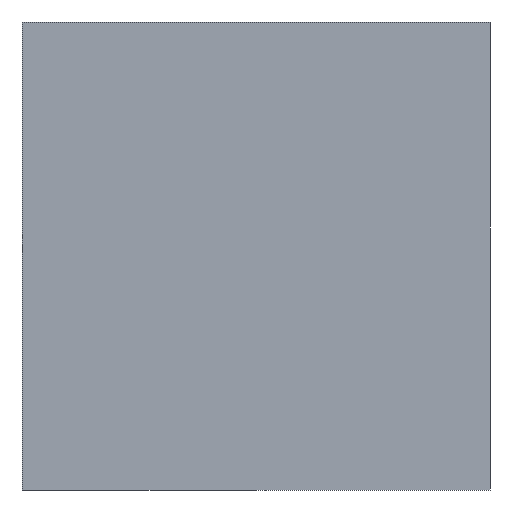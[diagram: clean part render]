
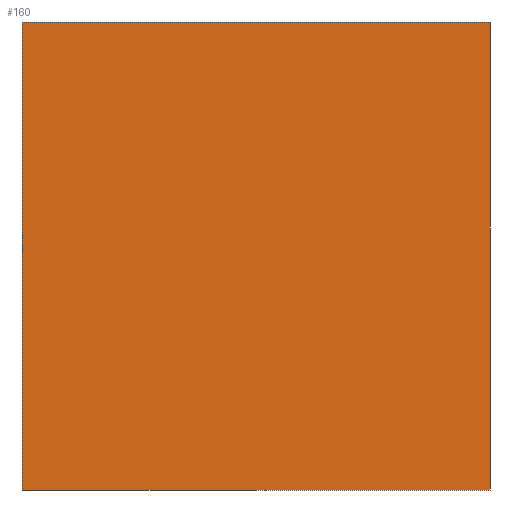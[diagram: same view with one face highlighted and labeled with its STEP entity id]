
A CAD part, left-side view. The second image highlights one B-rep face of the part: STEP entity #160.
In plain terms, the highlighted planar face has unit normal (-1, 0, 0).
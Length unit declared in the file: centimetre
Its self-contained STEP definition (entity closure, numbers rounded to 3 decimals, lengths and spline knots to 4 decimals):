
#3 = CARTESIAN_POINT ( 'NONE',  ( 0., 1000., 0. ) ) ;
#10 = LINE ( 'NONE', #148, #81 ) ;
#13 = VERTEX_POINT ( 'NONE', #277 ) ;
#28 = CARTESIAN_POINT ( 'NONE',  ( 0., 1000., 1000. ) ) ;
#63 = LINE ( 'NONE', #295, #72 ) ;
#72 = VECTOR ( 'NONE', #201, 100. ) ;
#81 = VECTOR ( 'NONE', #281, 100. ) ;
#99 = LINE ( 'NONE', #200, #379 ) ;
#100 = LINE ( 'NONE', #3, #292 ) ;
#105 = EDGE_CURVE ( 'NONE', #144, #387, #10, .T. ) ;
#109 = ORIENTED_EDGE ( 'NONE', *, *, #154, .T. ) ;
#139 = DIRECTION ( 'NONE',  ( 0., 0., -1. ) ) ;
#144 = VERTEX_POINT ( 'NONE', #197 ) ;
#146 = EDGE_CURVE ( 'NONE', #387, #241, #99, .T. ) ;
#148 = CARTESIAN_POINT ( 'NONE',  ( 0., 1000., 1000. ) ) ;
#154 = EDGE_CURVE ( 'NONE', #144, #13, #63, .T. ) ;
#160 = ADVANCED_FACE ( 'NONE', ( #334 ), #163, .F. ) ;
#163 = PLANE ( 'NONE',  #329 ) ;
#164 = DIRECTION ( 'NONE',  ( 0., -1., 0. ) ) ;
#197 = CARTESIAN_POINT ( 'NONE',  ( 0., 1000., 1000. ) ) ;
#200 = CARTESIAN_POINT ( 'NONE',  ( 0., 0., 1000. ) ) ;
#201 = DIRECTION ( 'NONE',  ( 0., 0., -1. ) ) ;
#208 = ORIENTED_EDGE ( 'NONE', *, *, #146, .F. ) ;
#222 = ORIENTED_EDGE ( 'NONE', *, *, #105, .F. ) ;
#239 = ORIENTED_EDGE ( 'NONE', *, *, #394, .T. ) ;
#241 = VERTEX_POINT ( 'NONE', #429 ) ;
#277 = CARTESIAN_POINT ( 'NONE',  ( 0., 1000., 0. ) ) ;
#281 = DIRECTION ( 'NONE',  ( 0., -1., 0. ) ) ;
#292 = VECTOR ( 'NONE', #164, 100. ) ;
#295 = CARTESIAN_POINT ( 'NONE',  ( 0., 1000., 1000. ) ) ;
#301 = DIRECTION ( 'NONE',  ( 1., 0., 0. ) ) ;
#329 = AXIS2_PLACEMENT_3D ( 'NONE', #28, #301, #402 ) ;
#334 = FACE_OUTER_BOUND ( 'NONE', #412, .T. ) ;
#338 = CARTESIAN_POINT ( 'NONE',  ( 0., 0., 1000. ) ) ;
#379 = VECTOR ( 'NONE', #139, 100. ) ;
#387 = VERTEX_POINT ( 'NONE', #338 ) ;
#394 = EDGE_CURVE ( 'NONE', #13, #241, #100, .T. ) ;
#402 = DIRECTION ( 'NONE',  ( 0., 0., -1. ) ) ;
#412 = EDGE_LOOP ( 'NONE', ( #239, #208, #222, #109 ) ) ;
#429 = CARTESIAN_POINT ( 'NONE',  ( 0., 0., 0. ) ) ;
